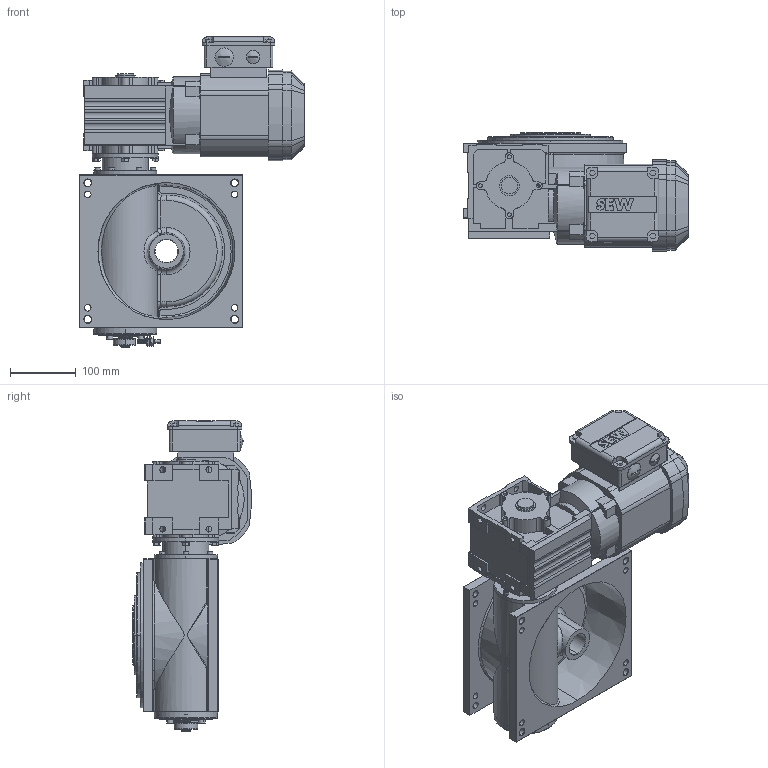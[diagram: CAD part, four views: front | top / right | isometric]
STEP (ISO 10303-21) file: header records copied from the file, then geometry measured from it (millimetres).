
FILE_DESCRIPTION (( 'STEP AP214' ), '1' );
FILE_NAME ('M190_SEW_WA30DRS71S4_D1.STEP', '2021-01-25T15:12:10', ( '' ), ( '' ), 'SwSTEP 2.0', 'SolidWorks 2020', '' );
FILE_SCHEMA (( 'AUTOMOTIVE_DESIGN' ));
Length unit declared in the file: millimetre
Products named in the file (1): M190_SEW_WA30DRS71S4_D1
Bounding box: 341.5 x 179.74 x 470.55 mm (x, y, z)
Surface area: 627477.1 mm2 (no closed solid volume)
Topology: 0 solids, 52 shells, 1244 faces, 3758 edges, 2478 vertices
Faces by surface type: plane 510, cylinder 426, cone 141, bspline 92, torus 63, sphere 12
Entity records: 65054 total; most frequent: CARTESIAN_POINT 18334, DIRECTION 6885, ORIENTED_EDGE 6507, EDGE_CURVE 3735, VERTEX_POINT 2478, AXIS2_PLACEMENT_3D 2464, VECTOR 1957, LINE 1957
